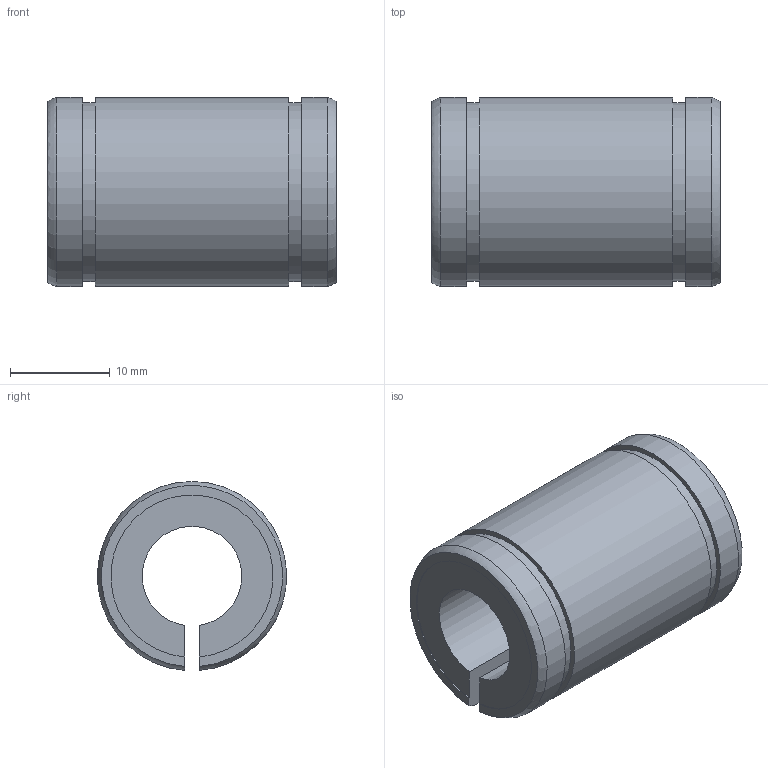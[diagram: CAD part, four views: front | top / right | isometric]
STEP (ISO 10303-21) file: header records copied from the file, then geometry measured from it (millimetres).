
FILE_DESCRIPTION((''),'2;1');
FILE_NAME('D:\製品 (図面)\カタログ用3D\リニアベアリング関連\STEP形式\LE-ADJ\LE10-ADJ.stp','2010-06-03T09:07:13',('Tsuchiya'),(''),'Autodesk Inventor 10','Autodesk Inventor 10','');
FILE_SCHEMA(('AUTOMOTIVE_DESIGN { 1 0 10303 214 1 1 1 1 }'));
Length unit declared in the file: millimetre
Products named in the file (1): LE10-ADJ
Bounding box: 29 x 18.99 x 18.97 mm (x, y, z)
Volume: 5631.3 mm3; surface area: 3280.3 mm2
Topology: 1 solids, 1 shells, 20 faces, 54 edges, 36 vertices
Faces by surface type: plane 10, cylinder 8, torus 2
Entity records: 687 total; most frequent: CARTESIAN_POINT 147, DIRECTION 110, ORIENTED_EDGE 108, EDGE_CURVE 54, AXIS2_PLACEMENT_3D 39, VERTEX_POINT 36, VECTOR 32, LINE 32
